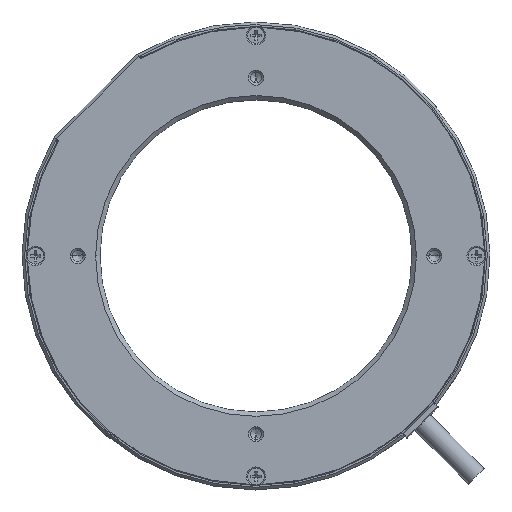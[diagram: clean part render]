
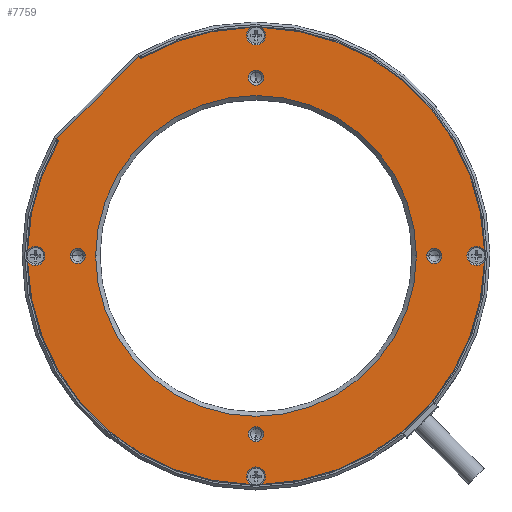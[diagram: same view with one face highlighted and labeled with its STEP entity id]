
A CAD part, top view. The second image highlights one B-rep face of the part: STEP entity #7759.
In plain terms, the highlighted planar face has unit normal (0, 0, 1).
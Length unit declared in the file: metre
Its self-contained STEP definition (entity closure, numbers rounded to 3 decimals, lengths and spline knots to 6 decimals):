
#1345=CARTESIAN_POINT('',(0.,0.,0.002));
#1346=DIRECTION('',(0.,0.,-1.));
#1347=DIRECTION('',(1.,0.,0.));
#1348=AXIS2_PLACEMENT_3D('',#1345,#1346,#1347);
#1350=CARTESIAN_POINT('',(0.,0.,0.002));
#1351=DIRECTION('',(0.,0.,-1.));
#1352=DIRECTION('',(-1.,0.,0.));
#1353=AXIS2_PLACEMENT_3D('',#1350,#1351,#1352);
#1355=CARTESIAN_POINT('',(0.04,0.,0.002));
#1356=DIRECTION('',(0.,0.,-1.));
#1357=DIRECTION('',(1.,0.,0.));
#1358=AXIS2_PLACEMENT_3D('',#1355,#1356,#1357);
#1360=CARTESIAN_POINT('',(0.04,0.,0.002));
#1361=DIRECTION('',(0.,0.,-1.));
#1362=DIRECTION('',(-1.,0.,0.));
#1363=AXIS2_PLACEMENT_3D('',#1360,#1361,#1362);
#1365=CARTESIAN_POINT('',(0.,0.04,0.002));
#1366=DIRECTION('',(0.,0.,-1.));
#1367=DIRECTION('',(0.,1.,0.));
#1368=AXIS2_PLACEMENT_3D('',#1365,#1366,#1367);
#1370=CARTESIAN_POINT('',(0.,0.04,0.002));
#1371=DIRECTION('',(0.,0.,-1.));
#1372=DIRECTION('',(0.,-1.,0.));
#1373=AXIS2_PLACEMENT_3D('',#1370,#1371,#1372);
#1375=CARTESIAN_POINT('',(-0.04,0.,0.002));
#1376=DIRECTION('',(0.,0.,-1.));
#1377=DIRECTION('',(-1.,0.,0.));
#1378=AXIS2_PLACEMENT_3D('',#1375,#1376,#1377);
#1380=CARTESIAN_POINT('',(-0.04,0.,0.002));
#1381=DIRECTION('',(0.,0.,-1.));
#1382=DIRECTION('',(1.,0.,0.));
#1383=AXIS2_PLACEMENT_3D('',#1380,#1381,#1382);
#1385=CARTESIAN_POINT('',(0.,-0.04,0.002));
#1386=DIRECTION('',(0.,0.,-1.));
#1387=DIRECTION('',(0.,-1.,0.));
#1388=AXIS2_PLACEMENT_3D('',#1385,#1386,#1387);
#1390=CARTESIAN_POINT('',(0.,-0.04,0.002));
#1391=DIRECTION('',(0.,0.,-1.));
#1392=DIRECTION('',(0.,1.,0.));
#1393=AXIS2_PLACEMENT_3D('',#1390,#1391,#1392);
#1395=CARTESIAN_POINT('',(0.,0.,0.002));
#1396=DIRECTION('',(0.,0.,1.));
#1397=DIRECTION('',(-0.867,0.498,0.));
#1398=AXIS2_PLACEMENT_3D('',#1395,#1396,#1397);
#1400=CARTESIAN_POINT('',(-0.044908,0.025816,0.002));
#1401=DIRECTION('',(0.,0.,-1.));
#1402=DIRECTION('',(0.707,0.707,0.));
#1403=AXIS2_PLACEMENT_3D('',#1400,#1401,#1402);
#1405=DIRECTION('',(0.707,-0.707,0.));
#1406=VECTOR('',#1405,0.000255);
#1407=CARTESIAN_POINT('',(-0.044735,0.02635,0.002));
#1408=LINE('',#1407,#1406);
#1409=DIRECTION('',(-0.707,-0.707,0.));
#1410=VECTOR('',#1409,0.026);
#1411=CARTESIAN_POINT('',(-0.02635,0.044735,0.002));
#1412=LINE('',#1411,#1410);
#1413=DIRECTION('',(-0.707,0.707,0.));
#1414=VECTOR('',#1413,0.000255);
#1415=CARTESIAN_POINT('',(-0.02617,0.044555,0.002));
#1416=LINE('',#1415,#1414);
#1417=CARTESIAN_POINT('',(-0.025816,0.044908,0.002));
#1418=DIRECTION('',(0.,0.,-1.));
#1419=DIRECTION('',(0.498,-0.867,0.));
#1420=AXIS2_PLACEMENT_3D('',#1417,#1418,#1419);
#1422=CARTESIAN_POINT('',(0.,0.,0.002));
#1423=DIRECTION('',(0.,0.,1.));
#1424=DIRECTION('',(-0.023,1.,0.));
#1425=AXIS2_PLACEMENT_3D('',#1422,#1423,#1424);
#1427=CARTESIAN_POINT('',(0.,0.,0.002));
#1428=DIRECTION('',(0.,0.,1.));
#1429=DIRECTION('',(1.,0.023,0.));
#1430=AXIS2_PLACEMENT_3D('',#1427,#1428,#1429);
#1432=CARTESIAN_POINT('',(0.,0.,0.002));
#1433=DIRECTION('',(0.,0.,1.));
#1434=DIRECTION('',(0.023,-1.,0.));
#1435=AXIS2_PLACEMENT_3D('',#1432,#1433,#1434);
#1437=CARTESIAN_POINT('',(0.,0.,0.002));
#1438=DIRECTION('',(0.,0.,1.));
#1439=DIRECTION('',(-1.,-0.023,0.));
#1440=AXIS2_PLACEMENT_3D('',#1437,#1438,#1439);
#1636=CARTESIAN_POINT('',(-0.0495,0.,0.002));
#1637=DIRECTION('',(0.,0.,-1.));
#1638=DIRECTION('',(-0.831,0.557,0.));
#1639=AXIS2_PLACEMENT_3D('',#1636,#1637,#1638);
#3493=CARTESIAN_POINT('',(0.,-0.0495,0.002));
#3494=DIRECTION('',(0.,0.,-1.));
#3495=DIRECTION('',(-0.557,-0.831,0.));
#3496=AXIS2_PLACEMENT_3D('',#3493,#3494,#3495);
#3820=CARTESIAN_POINT('',(0.0495,0.,0.002));
#3821=DIRECTION('',(0.,0.,-1.));
#3822=DIRECTION('',(0.831,-0.557,0.));
#3823=AXIS2_PLACEMENT_3D('',#3820,#3821,#3822);
#4154=CARTESIAN_POINT('',(0.,0.0495,0.002));
#4155=DIRECTION('',(0.,0.,-1.));
#4156=DIRECTION('',(0.557,0.831,0.));
#4157=AXIS2_PLACEMENT_3D('',#4154,#4155,#4156);
#4575=CARTESIAN_POINT('',(-0.044475,0.025567,0.002));
#4576=CARTESIAN_POINT('',(-0.051286,0.001197,0.002));
#4577=VERTEX_POINT('',#4575);
#4578=VERTEX_POINT('',#4576);
#4579=CARTESIAN_POINT('',(-0.044555,0.02617,0.002));
#4580=VERTEX_POINT('',#4579);
#4581=CARTESIAN_POINT('',(-0.044735,0.02635,0.002));
#4582=VERTEX_POINT('',#4581);
#4583=CARTESIAN_POINT('',(-0.02635,0.044735,0.002));
#4584=VERTEX_POINT('',#4583);
#4585=CARTESIAN_POINT('',(-0.02617,0.044555,0.002));
#4586=VERTEX_POINT('',#4585);
#4587=CARTESIAN_POINT('',(-0.025567,0.044475,0.002));
#4588=VERTEX_POINT('',#4587);
#4589=CARTESIAN_POINT('',(-0.001197,0.051286,0.002));
#4590=VERTEX_POINT('',#4589);
#4591=CARTESIAN_POINT('',(0.051286,0.001197,0.002));
#4592=CARTESIAN_POINT('',(0.001197,0.051286,0.002));
#4593=VERTEX_POINT('',#4591);
#4594=VERTEX_POINT('',#4592);
#4595=CARTESIAN_POINT('',(0.001197,-0.051286,0.002));
#4596=CARTESIAN_POINT('',(0.051286,-0.001197,0.002));
#4597=VERTEX_POINT('',#4595);
#4598=VERTEX_POINT('',#4596);
#4599=CARTESIAN_POINT('',(-0.051286,-0.001197,0.002));
#4600=CARTESIAN_POINT('',(-0.001197,-0.051286,0.002));
#4601=VERTEX_POINT('',#4599);
#4602=VERTEX_POINT('',#4600);
#4603=CARTESIAN_POINT('',(0.,-0.0383,0.002));
#4604=CARTESIAN_POINT('',(0.,-0.0417,0.002));
#4605=VERTEX_POINT('',#4603);
#4606=VERTEX_POINT('',#4604);
#4607=CARTESIAN_POINT('',(-0.0383,0.,0.002));
#4608=CARTESIAN_POINT('',(-0.0417,0.,0.002));
#4609=VERTEX_POINT('',#4607);
#4610=VERTEX_POINT('',#4608);
#4611=CARTESIAN_POINT('',(0.,0.0383,0.002));
#4612=CARTESIAN_POINT('',(0.,0.0417,0.002));
#4613=VERTEX_POINT('',#4611);
#4614=VERTEX_POINT('',#4612);
#4615=CARTESIAN_POINT('',(0.0383,0.,0.002));
#4616=CARTESIAN_POINT('',(0.0417,0.,0.002));
#4617=VERTEX_POINT('',#4615);
#4618=VERTEX_POINT('',#4616);
#4619=CARTESIAN_POINT('',(-0.036,0.,0.002));
#4620=CARTESIAN_POINT('',(0.036,0.,0.002));
#4621=VERTEX_POINT('',#4619);
#4622=VERTEX_POINT('',#4620);
#7696=CARTESIAN_POINT('',(0.,0.,0.002));
#7697=DIRECTION('',(0.,0.,-1.));
#7698=DIRECTION('',(1.,0.,0.));
#7699=AXIS2_PLACEMENT_3D('',#7696,#7697,#7698);
#7700=PLANE('',#7699);
#7702=ORIENTED_EDGE('',*,*,#7701,.F.);
#7704=ORIENTED_EDGE('',*,*,#7703,.F.);
#7706=ORIENTED_EDGE('',*,*,#7705,.F.);
#7708=ORIENTED_EDGE('',*,*,#7707,.F.);
#7710=ORIENTED_EDGE('',*,*,#7709,.F.);
#7712=ORIENTED_EDGE('',*,*,#7711,.F.);
#7714=ORIENTED_EDGE('',*,*,#7713,.F.);
#7716=ORIENTED_EDGE('',*,*,#7715,.F.);
#7718=ORIENTED_EDGE('',*,*,#7717,.F.);
#7720=ORIENTED_EDGE('',*,*,#7719,.F.);
#7722=ORIENTED_EDGE('',*,*,#7721,.F.);
#7724=ORIENTED_EDGE('',*,*,#7723,.F.);
#7726=ORIENTED_EDGE('',*,*,#7725,.F.);
#7728=ORIENTED_EDGE('',*,*,#7727,.F.);
#7729=EDGE_LOOP('',(#7702,#7704,#7706,#7708,#7710,#7712,#7714,#7716,#7718,#7720,
#7722,#7724,#7726,#7728));
#7730=FACE_OUTER_BOUND('',#7729,.F.);
#7732=ORIENTED_EDGE('',*,*,#7731,.F.);
#7734=ORIENTED_EDGE('',*,*,#7733,.F.);
#7735=EDGE_LOOP('',(#7732,#7734));
#7736=FACE_BOUND('',#7735,.F.);
#7738=ORIENTED_EDGE('',*,*,#7737,.F.);
#7740=ORIENTED_EDGE('',*,*,#7739,.F.);
#7741=EDGE_LOOP('',(#7738,#7740));
#7742=FACE_BOUND('',#7741,.F.);
#7744=ORIENTED_EDGE('',*,*,#7743,.F.);
#7746=ORIENTED_EDGE('',*,*,#7745,.F.);
#7747=EDGE_LOOP('',(#7744,#7746));
#7748=FACE_BOUND('',#7747,.F.);
#7750=ORIENTED_EDGE('',*,*,#7749,.F.);
#7752=ORIENTED_EDGE('',*,*,#7751,.F.);
#7753=EDGE_LOOP('',(#7750,#7752));
#7754=FACE_BOUND('',#7753,.F.);
#7755=ORIENTED_EDGE('',*,*,#7689,.F.);
#7756=ORIENTED_EDGE('',*,*,#7675,.F.);
#7757=EDGE_LOOP('',(#7755,#7756));
#7758=FACE_BOUND('',#7757,.F.);
#7759=ADVANCED_FACE('',(#7730,#7736,#7742,#7748,#7754,#7758),#7700,.F.);
#1349=CIRCLE('',#1348,0.036);
#1354=CIRCLE('',#1353,0.036);
#1359=CIRCLE('',#1358,0.0017);
#1364=CIRCLE('',#1363,0.0017);
#1369=CIRCLE('',#1368,0.0017);
#1374=CIRCLE('',#1373,0.0017);
#1379=CIRCLE('',#1378,0.0017);
#1384=CIRCLE('',#1383,0.0017);
#1389=CIRCLE('',#1388,0.0017);
#1394=CIRCLE('',#1393,0.0017);
#1399=CIRCLE('',#1398,0.0513);
#1404=CIRCLE('',#1403,0.0005);
#1421=CIRCLE('',#1420,0.0005);
#1426=CIRCLE('',#1425,0.0513);
#1431=CIRCLE('',#1430,0.0513);
#1436=CIRCLE('',#1435,0.0513);
#1441=CIRCLE('',#1440,0.0513);
#1640=CIRCLE('',#1639,0.00215);
#3497=CIRCLE('',#3496,0.00215);
#3824=CIRCLE('',#3823,0.00215);
#4158=CIRCLE('',#4157,0.00215);
#7675=EDGE_CURVE('',#4621,#4622,#1354,.T.);
#7689=EDGE_CURVE('',#4622,#4621,#1349,.T.);
#7701=EDGE_CURVE('',#4578,#4601,#1640,.T.);
#7703=EDGE_CURVE('',#4577,#4578,#1399,.T.);
#7705=EDGE_CURVE('',#4580,#4577,#1404,.T.);
#7707=EDGE_CURVE('',#4582,#4580,#1408,.T.);
#7709=EDGE_CURVE('',#4584,#4582,#1412,.T.);
#7711=EDGE_CURVE('',#4586,#4584,#1416,.T.);
#7713=EDGE_CURVE('',#4588,#4586,#1421,.T.);
#7715=EDGE_CURVE('',#4590,#4588,#1426,.T.);
#7717=EDGE_CURVE('',#4594,#4590,#4158,.T.);
#7719=EDGE_CURVE('',#4593,#4594,#1431,.T.);
#7721=EDGE_CURVE('',#4598,#4593,#3824,.T.);
#7723=EDGE_CURVE('',#4597,#4598,#1436,.T.);
#7725=EDGE_CURVE('',#4602,#4597,#3497,.T.);
#7727=EDGE_CURVE('',#4601,#4602,#1441,.T.);
#7731=EDGE_CURVE('',#4618,#4617,#1359,.T.);
#7733=EDGE_CURVE('',#4617,#4618,#1364,.T.);
#7737=EDGE_CURVE('',#4614,#4613,#1369,.T.);
#7739=EDGE_CURVE('',#4613,#4614,#1374,.T.);
#7743=EDGE_CURVE('',#4610,#4609,#1379,.T.);
#7745=EDGE_CURVE('',#4609,#4610,#1384,.T.);
#7749=EDGE_CURVE('',#4606,#4605,#1389,.T.);
#7751=EDGE_CURVE('',#4605,#4606,#1394,.T.);
